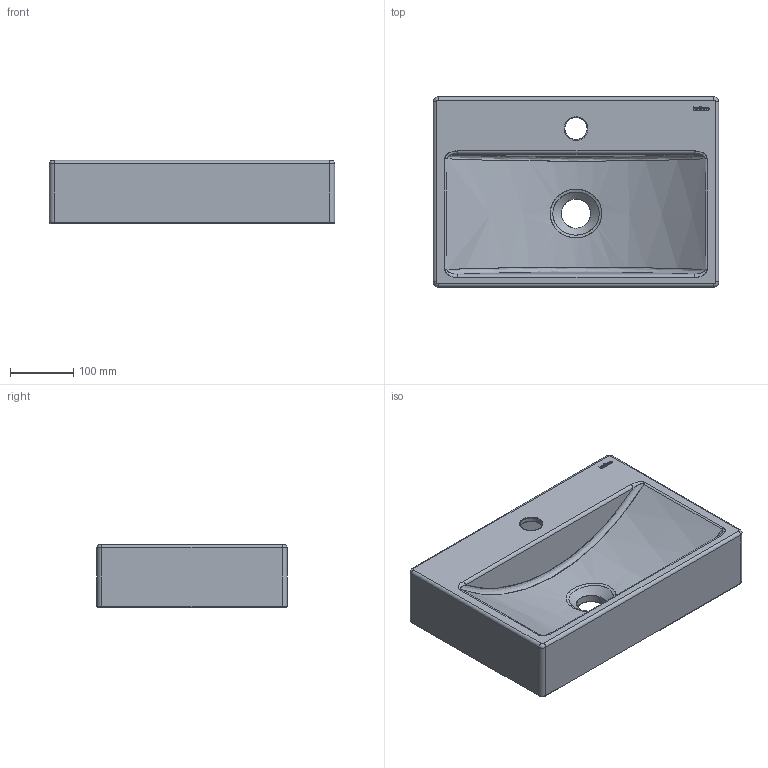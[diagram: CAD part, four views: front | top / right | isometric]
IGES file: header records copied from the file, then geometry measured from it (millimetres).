
Global section: file name: C:\Users\User\Desktop\4055_Paris_Bathco.igs; native system: Rhinoceros ( May  7 2021 ); preprocessor: Trout Lake IGES 012 May  7 2021; date: 220304.092933; units: millimetre
Bounding box: 450 x 300 x 100.19 mm (x, y, z)
Surface area: 628957.3 mm2 (no closed solid volume)
Topology: 0 solids, 0 shells, 159 faces, 1225 edges, 1208 vertices
Faces by surface type: bspline 159
